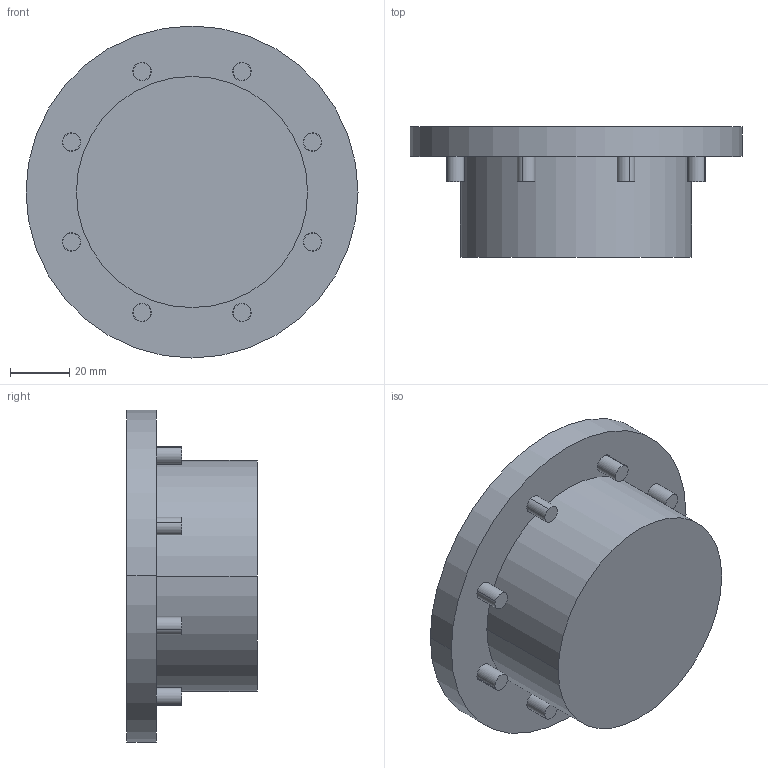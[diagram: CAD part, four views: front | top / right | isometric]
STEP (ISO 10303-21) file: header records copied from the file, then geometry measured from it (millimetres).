
FILE_DESCRIPTION( ( '' ), '1' );
FILE_NAME( 'C:/Data/AMF303016.stp', '2013-11-22T02:22:01', ( '' ), ( '' ), ' ', ' ', ' ' );
FILE_SCHEMA( ( 'CONFIG_CONTROL_DESIGN' ) );
Length unit declared in the file: millimetre
Products named in the file (1): 1
Bounding box: 112 x 44 x 112 mm (x, y, z)
Volume: 235160.7 mm3; surface area: 40886.7 mm2
Topology: 1 solids, 1 shells, 165 faces, 360 edges, 240 vertices
Faces by surface type: plane 93, cylinder 72
Entity records: 4602 total; most frequent: DIRECTION 836, CARTESIAN_POINT 766, ORIENTED_EDGE 720, EDGE_CURVE 360, AXIS2_PLACEMENT_3D 310, VERTEX_POINT 240, LINE 216, VECTOR 216
